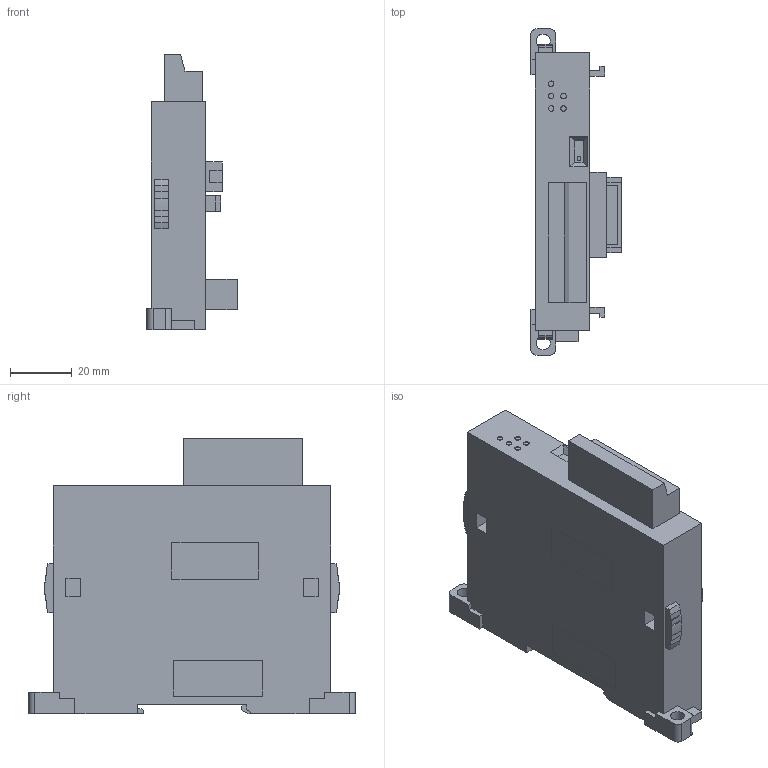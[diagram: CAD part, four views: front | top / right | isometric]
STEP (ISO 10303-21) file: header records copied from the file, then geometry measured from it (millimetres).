
FILE_DESCRIPTION(/* description */ (''),/* implementation_level */ '2;1');
FILE_NAME(/* name */ 'FX3U_2HSY_ADP_C_x_t.stp',/* time_stamp */ '2011-02-22T15:58:49+09:00',/* author */ (''),/* organization */ (''),/* preprocessor_version */ 'ST-DEVELOPER v11',/* originating_system */ 'UGS - NX 5.0',/* authorisation */ '');
FILE_SCHEMA (('CONFIG_CONTROL_DESIGN'));
Length unit declared in the file: millimetre
Products named in the file (7): HOOK_2HSY_ADP2_id31_x_t; HOOK_2HSY_ADP1_id26_x_t; SLIDER_2HSY_ADP_id21_x_t; FX3U_2HSY_ADP_id16_x_t; COVER_2HSY_ADP_id11_x_t; CAP_2HSY_ADP_id6_x_t; FX3U_2HSY_ADP_C_x_t
Assembly tree (6 placements, depth 2):
  FX3U_2HSY_ADP_C_x_t
    CAP_2HSY_ADP_id6_x_t
    COVER_2HSY_ADP_id11_x_t
    FX3U_2HSY_ADP_id16_x_t
    SLIDER_2HSY_ADP_id21_x_t
    HOOK_2HSY_ADP1_id26_x_t
    HOOK_2HSY_ADP2_id31_x_t
Bounding box: 29.3 x 106 x 89.5 mm (x, y, z)
Volume: 124777.9 mm3; surface area: 26860.4 mm2
Topology: 6 solids, 6 shells, 200 faces, 524 edges, 354 vertices
Faces by surface type: plane 183, cylinder 17
Full cylindrical faces by diameter (mm): 1.8 x5, 4.5 x2
Entity records: 6845 total; most frequent: CARTESIAN_POINT 1138, ORIENTED_EDGE 1034, DIRECTION 959, EDGE_CURVE 517, LINE 449, VECTOR 449, VERTEX_POINT 354, AXIS2_PLACEMENT_3D 255
